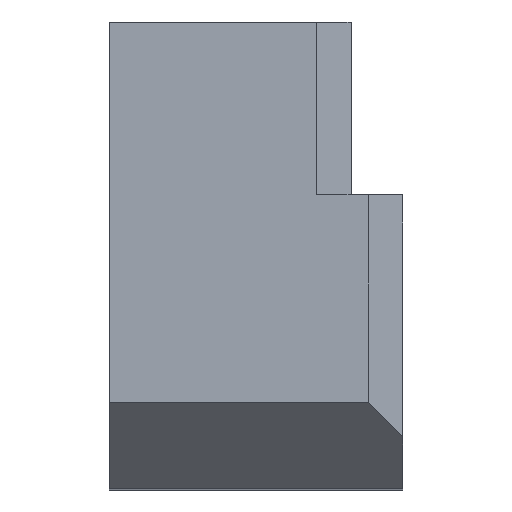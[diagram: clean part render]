
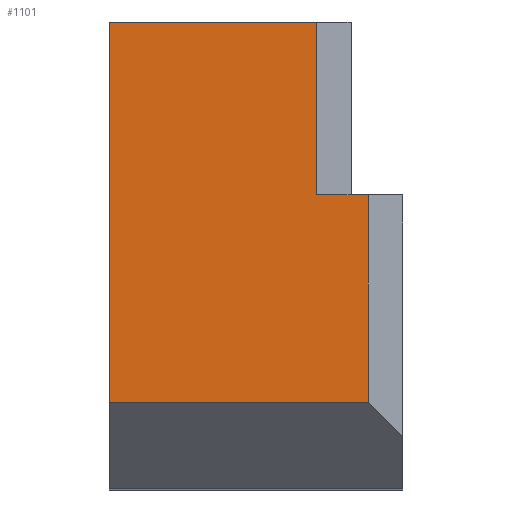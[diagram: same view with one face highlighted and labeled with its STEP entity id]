
A CAD part, top view. The second image highlights one B-rep face of the part: STEP entity #1101.
In plain terms, the highlighted planar face has unit normal (0, 0, 1).
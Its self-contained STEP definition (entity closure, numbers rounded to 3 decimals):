
#4 = CARTESIAN_POINT ( 'NONE',  ( 8., 3.5, 25. ) ) ;
#30 = FACE_OUTER_BOUND ( 'NONE', #296, .T. ) ;
#31 = LINE ( 'NONE', #410, #167 ) ;
#34 = LINE ( 'NONE', #1005, #472 ) ;
#60 = CARTESIAN_POINT ( 'NONE',  ( -7., -8.5, 25. ) ) ;
#67 = CARTESIAN_POINT ( 'NONE',  ( -7., 13.5, 25. ) ) ;
#73 = VECTOR ( 'NONE', #112, 1000. ) ;
#90 = CARTESIAN_POINT ( 'NONE',  ( 5., 13.5, 25. ) ) ;
#91 = EDGE_CURVE ( 'NONE', #1073, #558, #31, .T. ) ;
#100 = DIRECTION ( 'NONE',  ( 0., 1., 0. ) ) ;
#102 = VERTEX_POINT ( 'NONE', #473 ) ;
#112 = DIRECTION ( 'NONE',  ( 1., 0., 0. ) ) ;
#136 = ORIENTED_EDGE ( 'NONE', *, *, #1056, .T. ) ;
#146 = CARTESIAN_POINT ( 'NONE',  ( 7., -8.5, 25. ) ) ;
#167 = VECTOR ( 'NONE', #100, 1000. ) ;
#174 = DIRECTION ( 'NONE',  ( -1., 0., 0. ) ) ;
#197 = PLANE ( 'NONE',  #672 ) ;
#235 = DIRECTION ( 'NONE',  ( 0., 0., -1. ) ) ;
#296 = EDGE_LOOP ( 'NONE', ( #1018, #136, #992, #972, #985, #551 ) ) ;
#297 = CARTESIAN_POINT ( 'NONE',  ( 7., 13.5, 25. ) ) ;
#370 = CARTESIAN_POINT ( 'NONE',  ( 8., 13.5, 25. ) ) ;
#372 = VERTEX_POINT ( 'NONE', #4 ) ;
#410 = CARTESIAN_POINT ( 'NONE',  ( 5., 13.5, 25. ) ) ;
#430 = DIRECTION ( 'NONE',  ( -1., 0., 0. ) ) ;
#442 = DIRECTION ( 'NONE',  ( 0., 1., 0. ) ) ;
#454 = CARTESIAN_POINT ( 'NONE',  ( 8., -8.5, 25. ) ) ;
#468 = VERTEX_POINT ( 'NONE', #454 ) ;
#472 = VECTOR ( 'NONE', #430, 1000. ) ;
#473 = CARTESIAN_POINT ( 'NONE',  ( -7., 13.5, 25. ) ) ;
#488 = LINE ( 'NONE', #67, #1013 ) ;
#508 = CARTESIAN_POINT ( 'NONE',  ( 5., 3.5, 25. ) ) ;
#513 = LINE ( 'NONE', #370, #716 ) ;
#551 = ORIENTED_EDGE ( 'NONE', *, *, #1046, .T. ) ;
#558 = VERTEX_POINT ( 'NONE', #90 ) ;
#568 = LINE ( 'NONE', #924, #777 ) ;
#631 = DIRECTION ( 'NONE',  ( 0., 1., 0. ) ) ;
#666 = DIRECTION ( 'NONE',  ( 0., -1., 0. ) ) ;
#672 = AXIS2_PLACEMENT_3D ( 'NONE', #297, #235, #631 ) ;
#716 = VECTOR ( 'NONE', #442, 1000. ) ;
#777 = VECTOR ( 'NONE', #174, 1000. ) ;
#864 = VERTEX_POINT ( 'NONE', #60 ) ;
#924 = CARTESIAN_POINT ( 'NONE',  ( 7., 13.5, 25. ) ) ;
#965 = LINE ( 'NONE', #146, #73 ) ;
#972 = ORIENTED_EDGE ( 'NONE', *, *, #91, .T. ) ;
#985 = ORIENTED_EDGE ( 'NONE', *, *, #1012, .T. ) ;
#992 = ORIENTED_EDGE ( 'NONE', *, *, #1072, .T. ) ;
#1005 = CARTESIAN_POINT ( 'NONE',  ( 10., 3.5, 25. ) ) ;
#1012 = EDGE_CURVE ( 'NONE', #558, #102, #568, .T. ) ;
#1013 = VECTOR ( 'NONE', #666, 1000. ) ;
#1018 = ORIENTED_EDGE ( 'NONE', *, *, #1040, .T. ) ;
#1040 = EDGE_CURVE ( 'NONE', #864, #468, #965, .T. ) ;
#1046 = EDGE_CURVE ( 'NONE', #102, #864, #488, .T. ) ;
#1056 = EDGE_CURVE ( 'NONE', #468, #372, #513, .T. ) ;
#1072 = EDGE_CURVE ( 'NONE', #372, #1073, #34, .T. ) ;
#1073 = VERTEX_POINT ( 'NONE', #508 ) ;
#1101 = ADVANCED_FACE ( 'NONE', ( #30 ), #197, .F. ) ;
